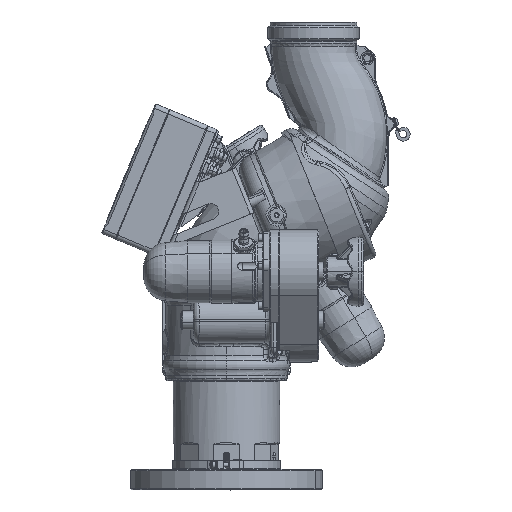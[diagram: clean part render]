
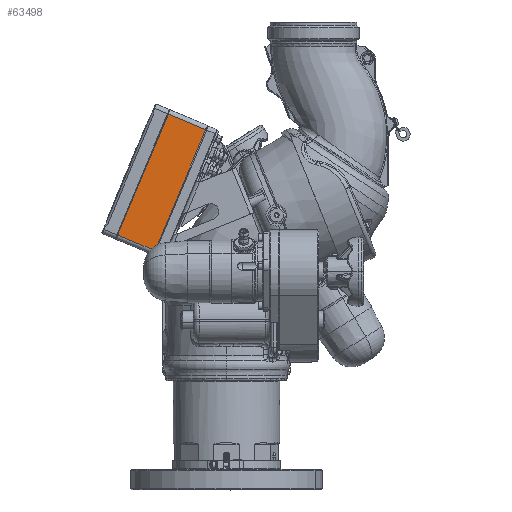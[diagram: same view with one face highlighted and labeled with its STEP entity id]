
A CAD part, top view. The second image highlights one B-rep face of the part: STEP entity #63498.
In plain terms, the highlighted planar face has unit normal (0, 0, 1).
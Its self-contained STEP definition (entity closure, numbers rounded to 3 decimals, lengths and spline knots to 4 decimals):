
#1592 = VERTEX_POINT ( 'NONE', #182480 ) ;
#6956 = EDGE_CURVE ( 'NONE', #156098, #177424, #18139, .T. ) ;
#7631 = CARTESIAN_POINT ( 'NONE',  ( -6.808, 1.4812, 2.8714 ) ) ;
#13935 = DIRECTION ( 'NONE',  ( 0., 0., 1. ) ) ;
#16571 = LINE ( 'NONE', #173395, #177976 ) ;
#16888 = DIRECTION ( 'NONE',  ( 0.386, 0.923, 0. ) ) ;
#18139 = LINE ( 'NONE', #119167, #57368 ) ;
#34051 = EDGE_CURVE ( 'NONE', #177424, #57598, #181547, .T. ) ;
#35816 = AXIS2_PLACEMENT_3D ( 'NONE', #145898, #13935, #41613 ) ;
#41613 = DIRECTION ( 'NONE',  ( 0.386, 0.923, 0. ) ) ;
#42699 = DIRECTION ( 'NONE',  ( -0.923, 0.386, 0. ) ) ;
#57368 = VECTOR ( 'NONE', #16888, 39.3701 ) ;
#57598 = VERTEX_POINT ( 'NONE', #181005 ) ;
#63498 = ADVANCED_FACE ( 'NONE', ( #113914 ), #129852, .T. ) ;
#63923 = VECTOR ( 'NONE', #42699, 39.3701 ) ;
#72722 = CARTESIAN_POINT ( 'NONE',  ( -4.4628, 7.0907, 2.8714 ) ) ;
#80615 = EDGE_LOOP ( 'NONE', ( #178100, #177844, #171205, #94204 ) ) ;
#94204 = ORIENTED_EDGE ( 'NONE', *, *, #175240, .F. ) ;
#107982 = VECTOR ( 'NONE', #150231, 39.3701 ) ;
#113914 = FACE_OUTER_BOUND ( 'NONE', #80615, .T. ) ;
#119167 = CARTESIAN_POINT ( 'NONE',  ( -4.4628, 7.0907, 2.8714 ) ) ;
#121835 = CARTESIAN_POINT ( 'NONE',  ( -6.7157, 1.4426, 2.8714 ) ) ;
#129633 = CARTESIAN_POINT ( 'NONE',  ( -4.3705, 7.0521, 2.8714 ) ) ;
#129852 = PLANE ( 'NONE',  #35816 ) ;
#141694 = EDGE_CURVE ( 'NONE', #156098, #1592, #149432, .T. ) ;
#144957 = DIRECTION ( 'NONE',  ( 0.386, 0.923, 0. ) ) ;
#145898 = CARTESIAN_POINT ( 'NONE',  ( -6.7157, 1.4426, 2.8714 ) ) ;
#149432 = LINE ( 'NONE', #121835, #107982 ) ;
#150231 = DIRECTION ( 'NONE',  ( -0.923, 0.386, 0. ) ) ;
#156098 = VERTEX_POINT ( 'NONE', #7631 ) ;
#171205 = ORIENTED_EDGE ( 'NONE', *, *, #34051, .T. ) ;
#173395 = CARTESIAN_POINT ( 'NONE',  ( -8.5425, 2.2064, 2.8714 ) ) ;
#175240 = EDGE_CURVE ( 'NONE', #1592, #57598, #16571, .T. ) ;
#177424 = VERTEX_POINT ( 'NONE', #72722 ) ;
#177844 = ORIENTED_EDGE ( 'NONE', *, *, #6956, .T. ) ;
#177976 = VECTOR ( 'NONE', #144957, 39.3701 ) ;
#178100 = ORIENTED_EDGE ( 'NONE', *, *, #141694, .F. ) ;
#181005 = CARTESIAN_POINT ( 'NONE',  ( -6.1973, 7.8158, 2.8714 ) ) ;
#181547 = LINE ( 'NONE', #129633, #63923 ) ;
#182480 = CARTESIAN_POINT ( 'NONE',  ( -8.5425, 2.2064, 2.8714 ) ) ;
